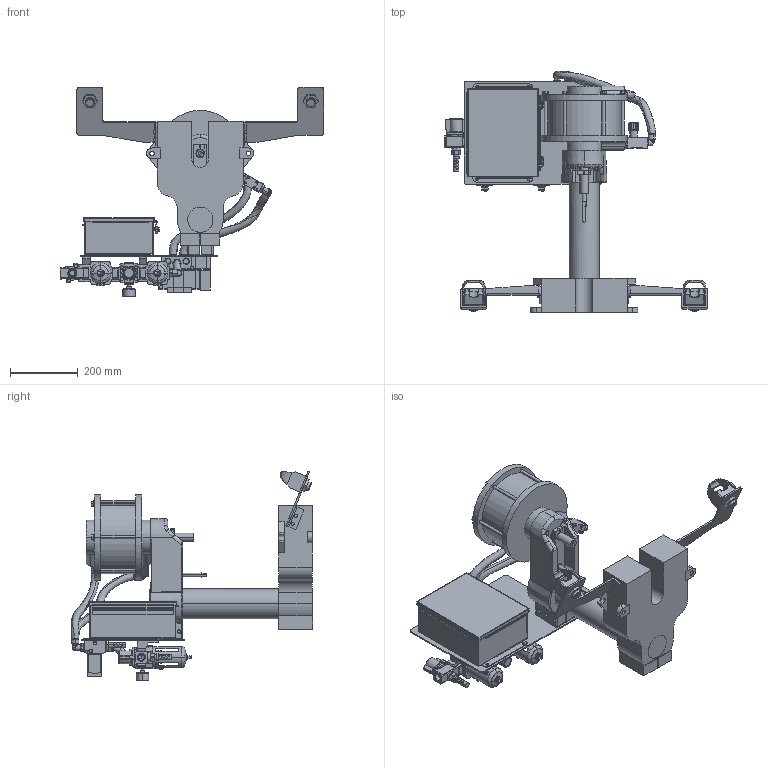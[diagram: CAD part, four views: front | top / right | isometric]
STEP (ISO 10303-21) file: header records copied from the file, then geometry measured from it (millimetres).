
FILE_DESCRIPTION (( 'STEP AP214' ), '1' );
FILE_NAME ('50-A PRESS.STEP', '2024-07-29T14:09:37', ( '' ), ( '' ), 'SwSTEP 2.0', 'SolidWorks 2018', '' );
FILE_SCHEMA (( 'AUTOMOTIVE_DESIGN' ));
Length unit declared in the file: inch
Products named in the file (6): 50A PRESS^50A PRESS_50-A-DS PRESS W RISER SCREW OPTION; POWER SYSTEM^CONTROL SYSTEM_50A PRESS_50-A-DS PRESS W RISER SCREW OPTION; 50-A PRESS; 50A PRESS^50-A-DS PRESS W RISER SCREW OPTION; EDP-1 CONTROL SYSTEM^50A PRESS_50-A-DS PRESS W RISER SCREW OPTION; ELECTRIC LOGIC SYSTEM^EDP-1 CONTROL SYSTEM_50A PRESS_50-A-DS PRESS W RISER SCREW OPTION
Assembly tree (5 placements, depth 4):
  50-A PRESS
    50A PRESS^50-A-DS PRESS W RISER SCREW OPTION
      EDP-1 CONTROL SYSTEM^50A PRESS_50-A-DS PRESS W RISER SCREW OPTION
        POWER SYSTEM^CONTROL SYSTEM_50A PRESS_50-A-DS PRESS W RISER SCREW OPTION
        ELECTRIC LOGIC SYSTEM^EDP-1 CONTROL SYSTEM_50A PRESS_50-A-DS PRESS W RISER SCREW OPTION
      50A PRESS^50A PRESS_50-A-DS PRESS W RISER SCREW OPTION
Bounding box: 779.12 x 716.3 x 621.7 mm (x, y, z)
Volume: 21464713.3 mm3; surface area: 2428324.3 mm2
Topology: 71 solids, 71 shells, 3143 faces, 8262 edges, 5246 vertices
Faces by surface type: plane 1405, cylinder 983, cone 522, bspline 137, torus 61, sphere 35
Full cylindrical faces by diameter (mm): 3.175 x56, 15.875 x2
Entity records: 144286 total; most frequent: CARTESIAN_POINT 62397, ORIENTED_EDGE 16134, DIRECTION 14721, EDGE_CURVE 8067, AXIS2_PLACEMENT_3D 5362, VERTEX_POINT 5232, LINE 3997, VECTOR 3997
